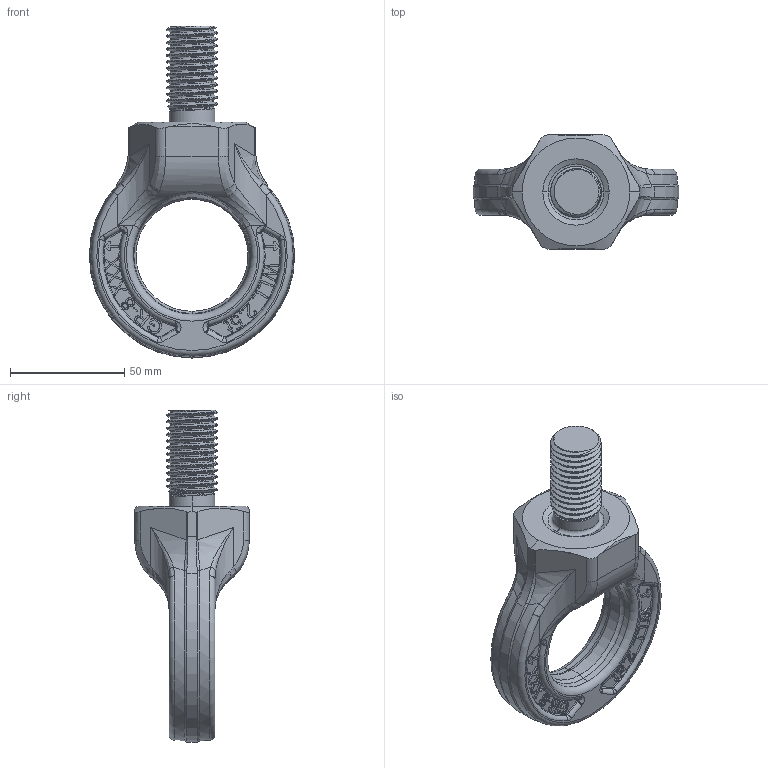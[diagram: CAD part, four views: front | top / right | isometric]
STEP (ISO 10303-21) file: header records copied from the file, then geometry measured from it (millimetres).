
FILE_DESCRIPTION (( 'STEP AP214' ), '1' );
FILE_NAME ('HTEBU875.STEP', '2025-11-30T22:54:42', ( '' ), ( '' ), 'SwSTEP 2.0', 'SolidWorks 2024', '' );
FILE_SCHEMA (( 'AUTOMOTIVE_DESIGN' ));
Length unit declared in the file: millimetre
Products named in the file (1): HTEBU875
Bounding box: 89.7 x 50 x 145 mm (x, y, z)
Volume: 145181.6 mm3; surface area: 26356.8 mm2
Topology: 1 solids, 1 shells, 782 faces, 2115 edges, 1370 vertices
Faces by surface type: bspline 437, plane 224, cylinder 81, torus 28, cone 12
Entity records: 46257 total; most frequent: CARTESIAN_POINT 29805, ORIENTED_EDGE 4214, EDGE_CURVE 2107, DIRECTION 2052, VERTEX_POINT 1370, LINE 958, VECTOR 958, B_SPLINE_CURVE_WITH_KNOTS 893
